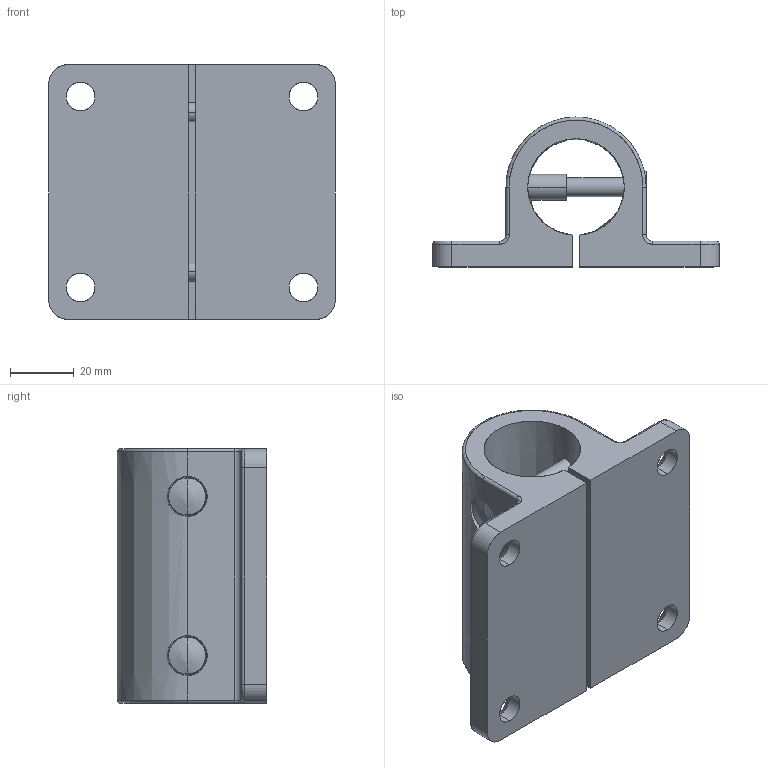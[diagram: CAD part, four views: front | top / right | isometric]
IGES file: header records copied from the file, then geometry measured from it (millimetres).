
Start section: SolidWorks IGES file using analytic representation for surfaces
Global section: file name: C:\Users\Gerard\OneDrive - Tecnodin, S.L\Escritorio\30 mm Verbinder im step. Format\31000410037.IGS; native system: SolidWorks 2016; preprocessor: SolidWorks 2016; author: Gerard; date: 240902.113618; units: millimetre
Bounding box: 90 x 47 x 80 mm (x, y, z)
Surface area: 36151 mm2 (no closed solid volume)
Topology: 0 solids, 0 shells, 152 faces, 2400 edges, 2390 vertices
Faces by surface type: revolution 100, bspline 52
